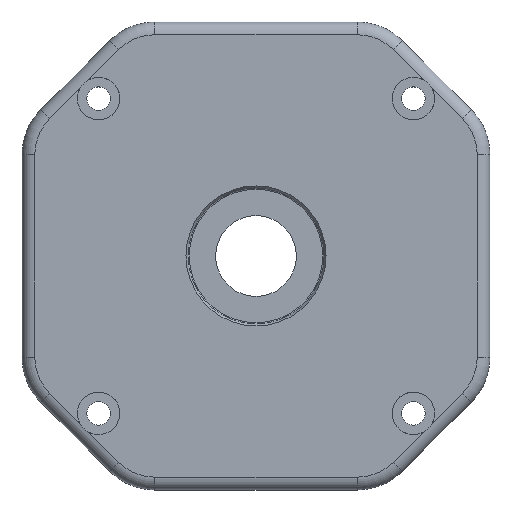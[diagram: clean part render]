
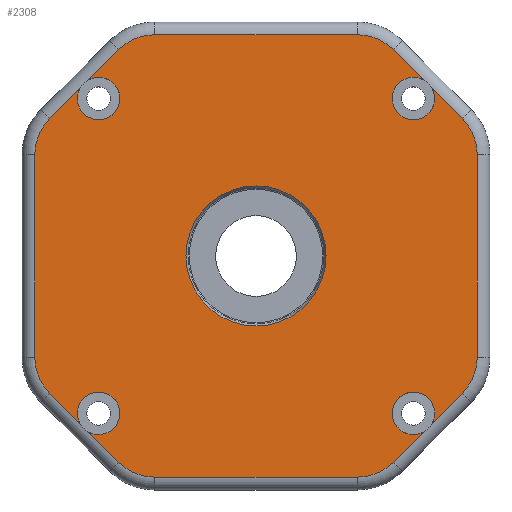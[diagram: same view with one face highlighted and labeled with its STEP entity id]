
A CAD part, top view. The second image highlights one B-rep face of the part: STEP entity #2308.
In plain terms, the highlighted planar face has unit normal (0, 0, 1).
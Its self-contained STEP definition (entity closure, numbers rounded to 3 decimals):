
#90=LINE('',#3699,#230);
#92=LINE('',#3706,#232);
#93=LINE('',#3709,#233);
#95=LINE('',#3716,#235);
#96=LINE('',#3719,#236);
#98=LINE('',#3726,#238);
#101=LINE('',#3753,#241);
#102=LINE('',#3756,#242);
#103=LINE('',#3758,#243);
#104=LINE('',#3762,#244);
#105=LINE('',#3767,#245);
#106=LINE('',#3772,#246);
#230=VECTOR('',#2870,10.);
#232=VECTOR('',#2876,10.);
#233=VECTOR('',#2879,10.);
#235=VECTOR('',#2885,10.);
#236=VECTOR('',#2888,10.);
#238=VECTOR('',#2894,10.);
#241=VECTOR('',#2917,10.);
#242=VECTOR('',#2920,10.);
#243=VECTOR('',#2921,10.);
#244=VECTOR('',#2924,10.);
#245=VECTOR('',#2929,10.);
#246=VECTOR('',#2934,10.);
#459=FACE_BOUND('',#648,.T.);
#485=FACE_OUTER_BOUND('',#647,.T.);
#647=EDGE_LOOP('',(#1610,#1611,#1612,#1613,#1614,#1615,#1616,#1617,#1618,
#1619,#1620,#1621,#1622,#1623,#1624,#1625,#1626,#1627,#1628,#1629,#1630,
#1631,#1632,#1633,#1634,#1635,#1636,#1637));
#648=EDGE_LOOP('',(#1638));
#803=CIRCLE('',#2478,5.);
#804=CIRCLE('',#2479,5.);
#808=CIRCLE('',#2486,5.);
#809=CIRCLE('',#2487,5.);
#813=CIRCLE('',#2494,5.);
#814=CIRCLE('',#2495,5.);
#824=CIRCLE('',#2511,5.);
#825=CIRCLE('',#2512,5.);
#827=CIRCLE('',#2516,12.);
#828=CIRCLE('',#2517,12.);
#829=CIRCLE('',#2518,12.);
#830=CIRCLE('',#2519,12.);
#831=CIRCLE('',#2520,12.);
#832=CIRCLE('',#2521,12.);
#833=CIRCLE('',#2522,12.);
#834=CIRCLE('',#2523,12.);
#835=CIRCLE('',#2524,16.462);
#983=VERTEX_POINT('',#3637);
#984=VERTEX_POINT('',#3638);
#985=VERTEX_POINT('',#3645);
#989=VERTEX_POINT('',#3659);
#990=VERTEX_POINT('',#3660);
#991=VERTEX_POINT('',#3667);
#995=VERTEX_POINT('',#3681);
#996=VERTEX_POINT('',#3682);
#997=VERTEX_POINT('',#3689);
#999=VERTEX_POINT('',#3698);
#1002=VERTEX_POINT('',#3704);
#1003=VERTEX_POINT('',#3708);
#1006=VERTEX_POINT('',#3714);
#1007=VERTEX_POINT('',#3718);
#1010=VERTEX_POINT('',#3724);
#1013=VERTEX_POINT('',#3733);
#1014=VERTEX_POINT('',#3734);
#1015=VERTEX_POINT('',#3741);
#1017=VERTEX_POINT('',#3750);
#1018=VERTEX_POINT('',#3752);
#1019=VERTEX_POINT('',#3754);
#1020=VERTEX_POINT('',#3757);
#1021=VERTEX_POINT('',#3759);
#1022=VERTEX_POINT('',#3761);
#1023=VERTEX_POINT('',#3764);
#1024=VERTEX_POINT('',#3766);
#1025=VERTEX_POINT('',#3769);
#1026=VERTEX_POINT('',#3771);
#1027=VERTEX_POINT('',#3774);
#1190=EDGE_CURVE('',#985,#983,#803,.T.);
#1192=EDGE_CURVE('',#984,#985,#804,.T.);
#1198=EDGE_CURVE('',#991,#989,#808,.T.);
#1200=EDGE_CURVE('',#990,#991,#809,.T.);
#1206=EDGE_CURVE('',#997,#995,#813,.T.);
#1208=EDGE_CURVE('',#996,#997,#814,.T.);
#1211=EDGE_CURVE('',#984,#999,#90,.T.);
#1215=EDGE_CURVE('',#1002,#983,#92,.T.);
#1216=EDGE_CURVE('',#990,#1003,#93,.T.);
#1220=EDGE_CURVE('',#1006,#989,#95,.T.);
#1221=EDGE_CURVE('',#996,#1007,#96,.T.);
#1225=EDGE_CURVE('',#1010,#995,#98,.T.);
#1229=EDGE_CURVE('',#1015,#1013,#824,.T.);
#1231=EDGE_CURVE('',#1014,#1015,#825,.T.);
#1234=EDGE_CURVE('',#1017,#1002,#827,.T.);
#1235=EDGE_CURVE('',#1018,#1017,#101,.T.);
#1236=EDGE_CURVE('',#1019,#1018,#828,.T.);
#1237=EDGE_CURVE('',#1014,#1019,#102,.T.);
#1238=EDGE_CURVE('',#1020,#1013,#103,.T.);
#1239=EDGE_CURVE('',#1021,#1020,#829,.T.);
#1240=EDGE_CURVE('',#1022,#1021,#104,.T.);
#1241=EDGE_CURVE('',#1007,#1022,#830,.T.);
#1242=EDGE_CURVE('',#1023,#1010,#831,.T.);
#1243=EDGE_CURVE('',#1024,#1023,#105,.T.);
#1244=EDGE_CURVE('',#1003,#1024,#832,.T.);
#1245=EDGE_CURVE('',#1025,#1006,#833,.T.);
#1246=EDGE_CURVE('',#1026,#1025,#106,.T.);
#1247=EDGE_CURVE('',#999,#1026,#834,.T.);
#1248=EDGE_CURVE('',#1027,#1027,#835,.T.);
#1610=ORIENTED_EDGE('',*,*,#1192,.T.);
#1611=ORIENTED_EDGE('',*,*,#1190,.T.);
#1612=ORIENTED_EDGE('',*,*,#1215,.F.);
#1613=ORIENTED_EDGE('',*,*,#1234,.F.);
#1614=ORIENTED_EDGE('',*,*,#1235,.F.);
#1615=ORIENTED_EDGE('',*,*,#1236,.F.);
#1616=ORIENTED_EDGE('',*,*,#1237,.F.);
#1617=ORIENTED_EDGE('',*,*,#1231,.T.);
#1618=ORIENTED_EDGE('',*,*,#1229,.T.);
#1619=ORIENTED_EDGE('',*,*,#1238,.F.);
#1620=ORIENTED_EDGE('',*,*,#1239,.F.);
#1621=ORIENTED_EDGE('',*,*,#1240,.F.);
#1622=ORIENTED_EDGE('',*,*,#1241,.F.);
#1623=ORIENTED_EDGE('',*,*,#1221,.F.);
#1624=ORIENTED_EDGE('',*,*,#1208,.T.);
#1625=ORIENTED_EDGE('',*,*,#1206,.T.);
#1626=ORIENTED_EDGE('',*,*,#1225,.F.);
#1627=ORIENTED_EDGE('',*,*,#1242,.F.);
#1628=ORIENTED_EDGE('',*,*,#1243,.F.);
#1629=ORIENTED_EDGE('',*,*,#1244,.F.);
#1630=ORIENTED_EDGE('',*,*,#1216,.F.);
#1631=ORIENTED_EDGE('',*,*,#1200,.T.);
#1632=ORIENTED_EDGE('',*,*,#1198,.T.);
#1633=ORIENTED_EDGE('',*,*,#1220,.F.);
#1634=ORIENTED_EDGE('',*,*,#1245,.F.);
#1635=ORIENTED_EDGE('',*,*,#1246,.F.);
#1636=ORIENTED_EDGE('',*,*,#1247,.F.);
#1637=ORIENTED_EDGE('',*,*,#1211,.F.);
#1638=ORIENTED_EDGE('',*,*,#1248,.F.);
#2262=PLANE('',#2515);
#2308=ADVANCED_FACE('',(#485,#459),#2262,.T.);
#2478=AXIS2_PLACEMENT_3D('',#3646,#2822,#2823);
#2479=AXIS2_PLACEMENT_3D('',#3648,#2825,#2826);
#2486=AXIS2_PLACEMENT_3D('',#3668,#2840,#2841);
#2487=AXIS2_PLACEMENT_3D('',#3670,#2843,#2844);
#2494=AXIS2_PLACEMENT_3D('',#3690,#2858,#2859);
#2495=AXIS2_PLACEMENT_3D('',#3692,#2861,#2862);
#2511=AXIS2_PLACEMENT_3D('',#3742,#2903,#2904);
#2512=AXIS2_PLACEMENT_3D('',#3744,#2906,#2907);
#2515=AXIS2_PLACEMENT_3D('',#3749,#2913,#2914);
#2516=AXIS2_PLACEMENT_3D('',#3751,#2915,#2916);
#2517=AXIS2_PLACEMENT_3D('',#3755,#2918,#2919);
#2518=AXIS2_PLACEMENT_3D('',#3760,#2922,#2923);
#2519=AXIS2_PLACEMENT_3D('',#3763,#2925,#2926);
#2520=AXIS2_PLACEMENT_3D('',#3765,#2927,#2928);
#2521=AXIS2_PLACEMENT_3D('',#3768,#2930,#2931);
#2522=AXIS2_PLACEMENT_3D('',#3770,#2932,#2933);
#2523=AXIS2_PLACEMENT_3D('',#3773,#2935,#2936);
#2524=AXIS2_PLACEMENT_3D('',#3775,#2937,#2938);
#2822=DIRECTION('center_axis',(0.,0.,-1.));
#2823=DIRECTION('ref_axis',(0.,-1.,0.));
#2825=DIRECTION('center_axis',(0.,0.,-1.));
#2826=DIRECTION('ref_axis',(0.,-1.,0.));
#2840=DIRECTION('center_axis',(0.,0.,-1.));
#2841=DIRECTION('ref_axis',(-1.,0.,0.));
#2843=DIRECTION('center_axis',(0.,0.,-1.));
#2844=DIRECTION('ref_axis',(-1.,0.,0.));
#2858=DIRECTION('center_axis',(0.,0.,-1.));
#2859=DIRECTION('ref_axis',(0.,1.,0.));
#2861=DIRECTION('center_axis',(0.,0.,-1.));
#2862=DIRECTION('ref_axis',(0.,1.,0.));
#2870=DIRECTION('',(0.707,-0.707,0.));
#2876=DIRECTION('',(0.707,-0.707,0.));
#2879=DIRECTION('',(-0.707,-0.707,0.));
#2885=DIRECTION('',(-0.707,-0.707,0.));
#2888=DIRECTION('',(-0.707,0.707,0.));
#2894=DIRECTION('',(-0.707,0.707,0.));
#2903=DIRECTION('center_axis',(0.,0.,-1.));
#2904=DIRECTION('ref_axis',(1.,0.,0.));
#2906=DIRECTION('center_axis',(0.,0.,-1.));
#2907=DIRECTION('ref_axis',(1.,0.,0.));
#2913=DIRECTION('center_axis',(0.,0.,1.));
#2914=DIRECTION('ref_axis',(1.,0.,0.));
#2915=DIRECTION('center_axis',(0.,0.,-1.));
#2916=DIRECTION('ref_axis',(0.383,0.924,0.));
#2917=DIRECTION('',(1.,0.,0.));
#2918=DIRECTION('center_axis',(0.,0.,-1.));
#2919=DIRECTION('ref_axis',(-0.383,0.924,0.));
#2920=DIRECTION('',(0.707,0.707,0.));
#2921=DIRECTION('',(0.707,0.707,0.));
#2922=DIRECTION('center_axis',(0.,0.,-1.));
#2923=DIRECTION('ref_axis',(-0.924,0.383,0.));
#2924=DIRECTION('',(0.,1.,0.));
#2925=DIRECTION('center_axis',(0.,0.,-1.));
#2926=DIRECTION('ref_axis',(-0.924,-0.383,0.));
#2927=DIRECTION('center_axis',(0.,0.,-1.));
#2928=DIRECTION('ref_axis',(-0.383,-0.924,0.));
#2929=DIRECTION('',(-1.,0.,0.));
#2930=DIRECTION('center_axis',(0.,0.,-1.));
#2931=DIRECTION('ref_axis',(0.383,-0.924,0.));
#2932=DIRECTION('center_axis',(0.,0.,-1.));
#2933=DIRECTION('ref_axis',(0.924,-0.383,0.));
#2934=DIRECTION('',(0.,-1.,0.));
#2935=DIRECTION('center_axis',(0.,0.,-1.));
#2936=DIRECTION('ref_axis',(0.924,0.383,0.));
#2937=DIRECTION('center_axis',(0.,0.,1.));
#2938=DIRECTION('ref_axis',(0.,-1.,0.));
#3637=CARTESIAN_POINT('',(39.337,41.42,10.));
#3638=CARTESIAN_POINT('',(41.42,39.337,10.));
#3645=CARTESIAN_POINT('',(37.,42.,10.));
#3646=CARTESIAN_POINT('Origin',(37.,37.,10.));
#3648=CARTESIAN_POINT('Origin',(37.,37.,10.));
#3659=CARTESIAN_POINT('',(41.42,-39.337,10.));
#3660=CARTESIAN_POINT('',(39.337,-41.42,10.));
#3667=CARTESIAN_POINT('',(42.,-37.,10.));
#3668=CARTESIAN_POINT('Origin',(37.,-37.,10.));
#3670=CARTESIAN_POINT('Origin',(37.,-37.,10.));
#3681=CARTESIAN_POINT('',(-39.337,-41.42,10.));
#3682=CARTESIAN_POINT('',(-41.42,-39.337,10.));
#3689=CARTESIAN_POINT('',(-37.,-42.,10.));
#3690=CARTESIAN_POINT('Origin',(-37.,-37.,10.));
#3692=CARTESIAN_POINT('Origin',(-37.,-37.,10.));
#3698=CARTESIAN_POINT('',(48.485,32.272,10.));
#3699=CARTESIAN_POINT('',(40.379,40.379,10.));
#3704=CARTESIAN_POINT('',(32.272,48.485,10.));
#3706=CARTESIAN_POINT('',(40.379,40.379,10.));
#3708=CARTESIAN_POINT('',(32.272,-48.485,10.));
#3709=CARTESIAN_POINT('',(40.379,-40.379,10.));
#3714=CARTESIAN_POINT('',(48.485,-32.272,10.));
#3716=CARTESIAN_POINT('',(40.379,-40.379,10.));
#3718=CARTESIAN_POINT('',(-48.485,-32.272,10.));
#3719=CARTESIAN_POINT('',(-40.379,-40.379,10.));
#3724=CARTESIAN_POINT('',(-32.272,-48.485,10.));
#3726=CARTESIAN_POINT('',(-40.379,-40.379,10.));
#3733=CARTESIAN_POINT('',(-41.42,39.337,10.));
#3734=CARTESIAN_POINT('',(-39.337,41.42,10.));
#3741=CARTESIAN_POINT('',(-42.,37.,10.));
#3742=CARTESIAN_POINT('Origin',(-37.,37.,10.));
#3744=CARTESIAN_POINT('Origin',(-37.,37.,10.));
#3749=CARTESIAN_POINT('Origin',(0.,0.,10.));
#3750=CARTESIAN_POINT('',(23.787,52.,10.));
#3751=CARTESIAN_POINT('Origin',(23.787,40.,10.));
#3752=CARTESIAN_POINT('',(-23.787,52.,10.));
#3753=CARTESIAN_POINT('',(27.5,52.,10.));
#3754=CARTESIAN_POINT('',(-32.272,48.485,10.));
#3755=CARTESIAN_POINT('Origin',(-23.787,40.,10.));
#3756=CARTESIAN_POINT('',(-40.379,40.379,10.));
#3757=CARTESIAN_POINT('',(-48.485,32.272,10.));
#3758=CARTESIAN_POINT('',(-40.379,40.379,10.));
#3759=CARTESIAN_POINT('',(-52.,23.787,10.));
#3760=CARTESIAN_POINT('Origin',(-40.,23.787,10.));
#3761=CARTESIAN_POINT('',(-52.,-23.787,10.));
#3762=CARTESIAN_POINT('',(-52.,27.5,10.));
#3763=CARTESIAN_POINT('Origin',(-40.,-23.787,10.));
#3764=CARTESIAN_POINT('',(-23.787,-52.,10.));
#3765=CARTESIAN_POINT('Origin',(-23.787,-40.,10.));
#3766=CARTESIAN_POINT('',(23.787,-52.,10.));
#3767=CARTESIAN_POINT('',(-27.5,-52.,10.));
#3768=CARTESIAN_POINT('Origin',(23.787,-40.,10.));
#3769=CARTESIAN_POINT('',(52.,-23.787,10.));
#3770=CARTESIAN_POINT('Origin',(40.,-23.787,10.));
#3771=CARTESIAN_POINT('',(52.,23.787,10.));
#3772=CARTESIAN_POINT('',(52.,-27.5,10.));
#3773=CARTESIAN_POINT('Origin',(40.,23.787,10.));
#3774=CARTESIAN_POINT('',(0.,16.462,10.));
#3775=CARTESIAN_POINT('Origin',(0.,0.,10.));
